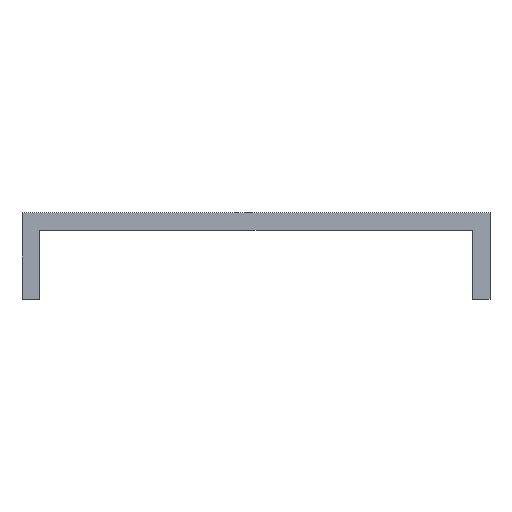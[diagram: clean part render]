
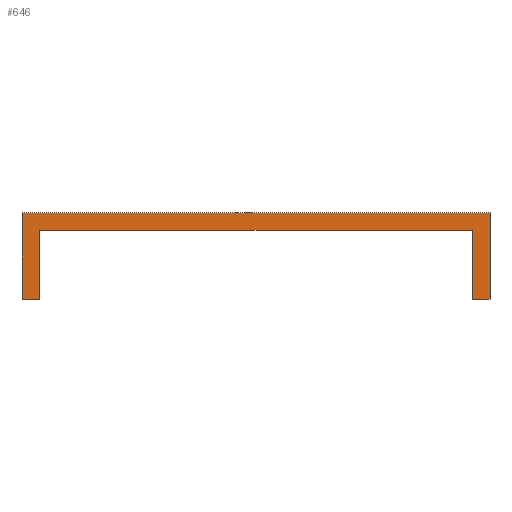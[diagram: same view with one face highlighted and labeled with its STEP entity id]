
A CAD part, top view. The second image highlights one B-rep face of the part: STEP entity #646.
In plain terms, the highlighted planar face has unit normal (0, 0, 1).
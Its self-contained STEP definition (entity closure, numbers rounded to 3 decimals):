
#24 = VERTEX_POINT('',#25);
#25 = CARTESIAN_POINT('',(-278.,0.,2.));
#32 = PLANE('',#33);
#33 = AXIS2_PLACEMENT_3D('',#34,#35,#36);
#34 = CARTESIAN_POINT('',(-278.,0.,0.));
#35 = DIRECTION('',(0.,1.,0.));
#36 = DIRECTION('',(1.,0.,0.));
#44 = PLANE('',#45);
#45 = AXIS2_PLACEMENT_3D('',#46,#47,#48);
#46 = CARTESIAN_POINT('',(-278.,103.,0.));
#47 = DIRECTION('',(1.,0.,-0.));
#48 = DIRECTION('',(0.,-1.,0.));
#56 = EDGE_CURVE('',#24,#57,#59,.T.);
#57 = VERTEX_POINT('',#58);
#58 = CARTESIAN_POINT('',(-257.,0.,2.));
#59 = SURFACE_CURVE('',#60,(#64,#71),.PCURVE_S1.);
#60 = LINE('',#61,#62);
#61 = CARTESIAN_POINT('',(-278.,0.,2.));
#62 = VECTOR('',#63,1.);
#63 = DIRECTION('',(1.,0.,0.));
#64 = PCURVE('',#32,#65);
#65 = DEFINITIONAL_REPRESENTATION('',(#66),#70);
#66 = LINE('',#67,#68);
#67 = CARTESIAN_POINT('',(0.,-2.));
#68 = VECTOR('',#69,1.);
#69 = DIRECTION('',(1.,0.));
#70 = ( GEOMETRIC_REPRESENTATION_CONTEXT(2) 
PARAMETRIC_REPRESENTATION_CONTEXT() REPRESENTATION_CONTEXT('2D SPACE',''
  ) );
#71 = PCURVE('',#72,#77);
#72 = PLANE('',#73);
#73 = AXIS2_PLACEMENT_3D('',#74,#75,#76);
#74 = CARTESIAN_POINT('',(0.,78.778,2.));
#75 = DIRECTION('',(0.,0.,1.));
#76 = DIRECTION('',(1.,0.,-0.));
#77 = DEFINITIONAL_REPRESENTATION('',(#78),#82);
#78 = LINE('',#79,#80);
#79 = CARTESIAN_POINT('',(-278.,-78.778));
#80 = VECTOR('',#81,1.);
#81 = DIRECTION('',(1.,0.));
#82 = ( GEOMETRIC_REPRESENTATION_CONTEXT(2) 
PARAMETRIC_REPRESENTATION_CONTEXT() REPRESENTATION_CONTEXT('2D SPACE',''
  ) );
#100 = PLANE('',#101);
#101 = AXIS2_PLACEMENT_3D('',#102,#103,#104);
#102 = CARTESIAN_POINT('',(-257.,0.,0.));
#103 = DIRECTION('',(-1.,0.,0.));
#104 = DIRECTION('',(0.,1.,0.));
#142 = EDGE_CURVE('',#57,#143,#145,.T.);
#143 = VERTEX_POINT('',#144);
#144 = CARTESIAN_POINT('',(-257.,82.,2.));
#145 = SURFACE_CURVE('',#146,(#150,#157),.PCURVE_S1.);
#146 = LINE('',#147,#148);
#147 = CARTESIAN_POINT('',(-257.,0.,2.));
#148 = VECTOR('',#149,1.);
#149 = DIRECTION('',(0.,1.,0.));
#150 = PCURVE('',#100,#151);
#151 = DEFINITIONAL_REPRESENTATION('',(#152),#156);
#152 = LINE('',#153,#154);
#153 = CARTESIAN_POINT('',(0.,-2.));
#154 = VECTOR('',#155,1.);
#155 = DIRECTION('',(1.,0.));
#156 = ( GEOMETRIC_REPRESENTATION_CONTEXT(2) 
PARAMETRIC_REPRESENTATION_CONTEXT() REPRESENTATION_CONTEXT('2D SPACE',''
  ) );
#157 = PCURVE('',#72,#158);
#158 = DEFINITIONAL_REPRESENTATION('',(#159),#163);
#159 = LINE('',#160,#161);
#160 = CARTESIAN_POINT('',(-257.,-78.778));
#161 = VECTOR('',#162,1.);
#162 = DIRECTION('',(0.,1.));
#163 = ( GEOMETRIC_REPRESENTATION_CONTEXT(2) 
PARAMETRIC_REPRESENTATION_CONTEXT() REPRESENTATION_CONTEXT('2D SPACE',''
  ) );
#181 = PLANE('',#182);
#182 = AXIS2_PLACEMENT_3D('',#183,#184,#185);
#183 = CARTESIAN_POINT('',(-257.,82.,0.));
#184 = DIRECTION('',(0.,1.,0.));
#185 = DIRECTION('',(1.,0.,0.));
#218 = EDGE_CURVE('',#143,#219,#221,.T.);
#219 = VERTEX_POINT('',#220);
#220 = CARTESIAN_POINT('',(257.,82.,2.));
#221 = SURFACE_CURVE('',#222,(#226,#233),.PCURVE_S1.);
#222 = LINE('',#223,#224);
#223 = CARTESIAN_POINT('',(-257.,82.,2.));
#224 = VECTOR('',#225,1.);
#225 = DIRECTION('',(1.,0.,0.));
#226 = PCURVE('',#181,#227);
#227 = DEFINITIONAL_REPRESENTATION('',(#228),#232);
#228 = LINE('',#229,#230);
#229 = CARTESIAN_POINT('',(0.,-2.));
#230 = VECTOR('',#231,1.);
#231 = DIRECTION('',(1.,0.));
#232 = ( GEOMETRIC_REPRESENTATION_CONTEXT(2) 
PARAMETRIC_REPRESENTATION_CONTEXT() REPRESENTATION_CONTEXT('2D SPACE',''
  ) );
#233 = PCURVE('',#72,#234);
#234 = DEFINITIONAL_REPRESENTATION('',(#235),#239);
#235 = LINE('',#236,#237);
#236 = CARTESIAN_POINT('',(-257.,3.222));
#237 = VECTOR('',#238,1.);
#238 = DIRECTION('',(1.,0.));
#239 = ( GEOMETRIC_REPRESENTATION_CONTEXT(2) 
PARAMETRIC_REPRESENTATION_CONTEXT() REPRESENTATION_CONTEXT('2D SPACE',''
  ) );
#257 = PLANE('',#258);
#258 = AXIS2_PLACEMENT_3D('',#259,#260,#261);
#259 = CARTESIAN_POINT('',(257.,82.,0.));
#260 = DIRECTION('',(1.,0.,-0.));
#261 = DIRECTION('',(0.,-1.,0.));
#294 = EDGE_CURVE('',#219,#295,#297,.T.);
#295 = VERTEX_POINT('',#296);
#296 = CARTESIAN_POINT('',(257.,0.,2.));
#297 = SURFACE_CURVE('',#298,(#302,#309),.PCURVE_S1.);
#298 = LINE('',#299,#300);
#299 = CARTESIAN_POINT('',(257.,82.,2.));
#300 = VECTOR('',#301,1.);
#301 = DIRECTION('',(0.,-1.,0.));
#302 = PCURVE('',#257,#303);
#303 = DEFINITIONAL_REPRESENTATION('',(#304),#308);
#304 = LINE('',#305,#306);
#305 = CARTESIAN_POINT('',(0.,-2.));
#306 = VECTOR('',#307,1.);
#307 = DIRECTION('',(1.,0.));
#308 = ( GEOMETRIC_REPRESENTATION_CONTEXT(2) 
PARAMETRIC_REPRESENTATION_CONTEXT() REPRESENTATION_CONTEXT('2D SPACE',''
  ) );
#309 = PCURVE('',#72,#310);
#310 = DEFINITIONAL_REPRESENTATION('',(#311),#315);
#311 = LINE('',#312,#313);
#312 = CARTESIAN_POINT('',(257.,3.222));
#313 = VECTOR('',#314,1.);
#314 = DIRECTION('',(0.,-1.));
#315 = ( GEOMETRIC_REPRESENTATION_CONTEXT(2) 
PARAMETRIC_REPRESENTATION_CONTEXT() REPRESENTATION_CONTEXT('2D SPACE',''
  ) );
#333 = PLANE('',#334);
#334 = AXIS2_PLACEMENT_3D('',#335,#336,#337);
#335 = CARTESIAN_POINT('',(257.,0.,0.));
#336 = DIRECTION('',(0.,1.,0.));
#337 = DIRECTION('',(1.,0.,0.));
#370 = EDGE_CURVE('',#295,#371,#373,.T.);
#371 = VERTEX_POINT('',#372);
#372 = CARTESIAN_POINT('',(278.,0.,2.));
#373 = SURFACE_CURVE('',#374,(#378,#385),.PCURVE_S1.);
#374 = LINE('',#375,#376);
#375 = CARTESIAN_POINT('',(257.,0.,2.));
#376 = VECTOR('',#377,1.);
#377 = DIRECTION('',(1.,0.,0.));
#378 = PCURVE('',#333,#379);
#379 = DEFINITIONAL_REPRESENTATION('',(#380),#384);
#380 = LINE('',#381,#382);
#381 = CARTESIAN_POINT('',(0.,-2.));
#382 = VECTOR('',#383,1.);
#383 = DIRECTION('',(1.,0.));
#384 = ( GEOMETRIC_REPRESENTATION_CONTEXT(2) 
PARAMETRIC_REPRESENTATION_CONTEXT() REPRESENTATION_CONTEXT('2D SPACE',''
  ) );
#385 = PCURVE('',#72,#386);
#386 = DEFINITIONAL_REPRESENTATION('',(#387),#391);
#387 = LINE('',#388,#389);
#388 = CARTESIAN_POINT('',(257.,-78.778));
#389 = VECTOR('',#390,1.);
#390 = DIRECTION('',(1.,0.));
#391 = ( GEOMETRIC_REPRESENTATION_CONTEXT(2) 
PARAMETRIC_REPRESENTATION_CONTEXT() REPRESENTATION_CONTEXT('2D SPACE',''
  ) );
#409 = PLANE('',#410);
#410 = AXIS2_PLACEMENT_3D('',#411,#412,#413);
#411 = CARTESIAN_POINT('',(278.,0.,0.));
#412 = DIRECTION('',(-1.,0.,0.));
#413 = DIRECTION('',(0.,1.,0.));
#446 = EDGE_CURVE('',#371,#447,#449,.T.);
#447 = VERTEX_POINT('',#448);
#448 = CARTESIAN_POINT('',(278.,103.,2.));
#449 = SURFACE_CURVE('',#450,(#454,#461),.PCURVE_S1.);
#450 = LINE('',#451,#452);
#451 = CARTESIAN_POINT('',(278.,0.,2.));
#452 = VECTOR('',#453,1.);
#453 = DIRECTION('',(0.,1.,0.));
#454 = PCURVE('',#409,#455);
#455 = DEFINITIONAL_REPRESENTATION('',(#456),#460);
#456 = LINE('',#457,#458);
#457 = CARTESIAN_POINT('',(0.,-2.));
#458 = VECTOR('',#459,1.);
#459 = DIRECTION('',(1.,0.));
#460 = ( GEOMETRIC_REPRESENTATION_CONTEXT(2) 
PARAMETRIC_REPRESENTATION_CONTEXT() REPRESENTATION_CONTEXT('2D SPACE',''
  ) );
#461 = PCURVE('',#72,#462);
#462 = DEFINITIONAL_REPRESENTATION('',(#463),#467);
#463 = LINE('',#464,#465);
#464 = CARTESIAN_POINT('',(278.,-78.778));
#465 = VECTOR('',#466,1.);
#466 = DIRECTION('',(0.,1.));
#467 = ( GEOMETRIC_REPRESENTATION_CONTEXT(2) 
PARAMETRIC_REPRESENTATION_CONTEXT() REPRESENTATION_CONTEXT('2D SPACE',''
  ) );
#485 = PLANE('',#486);
#486 = AXIS2_PLACEMENT_3D('',#487,#488,#489);
#487 = CARTESIAN_POINT('',(278.,103.,0.));
#488 = DIRECTION('',(0.,-1.,0.));
#489 = DIRECTION('',(-1.,0.,0.));
#522 = EDGE_CURVE('',#447,#523,#525,.T.);
#523 = VERTEX_POINT('',#524);
#524 = CARTESIAN_POINT('',(-278.,103.,2.));
#525 = SURFACE_CURVE('',#526,(#530,#537),.PCURVE_S1.);
#526 = LINE('',#527,#528);
#527 = CARTESIAN_POINT('',(278.,103.,2.));
#528 = VECTOR('',#529,1.);
#529 = DIRECTION('',(-1.,0.,0.));
#530 = PCURVE('',#485,#531);
#531 = DEFINITIONAL_REPRESENTATION('',(#532),#536);
#532 = LINE('',#533,#534);
#533 = CARTESIAN_POINT('',(0.,-2.));
#534 = VECTOR('',#535,1.);
#535 = DIRECTION('',(1.,0.));
#536 = ( GEOMETRIC_REPRESENTATION_CONTEXT(2) 
PARAMETRIC_REPRESENTATION_CONTEXT() REPRESENTATION_CONTEXT('2D SPACE',''
  ) );
#537 = PCURVE('',#72,#538);
#538 = DEFINITIONAL_REPRESENTATION('',(#539),#543);
#539 = LINE('',#540,#541);
#540 = CARTESIAN_POINT('',(278.,24.222));
#541 = VECTOR('',#542,1.);
#542 = DIRECTION('',(-1.,0.));
#543 = ( GEOMETRIC_REPRESENTATION_CONTEXT(2) 
PARAMETRIC_REPRESENTATION_CONTEXT() REPRESENTATION_CONTEXT('2D SPACE',''
  ) );
#593 = EDGE_CURVE('',#523,#24,#594,.T.);
#594 = SURFACE_CURVE('',#595,(#599,#606),.PCURVE_S1.);
#595 = LINE('',#596,#597);
#596 = CARTESIAN_POINT('',(-278.,103.,2.));
#597 = VECTOR('',#598,1.);
#598 = DIRECTION('',(0.,-1.,0.));
#599 = PCURVE('',#44,#600);
#600 = DEFINITIONAL_REPRESENTATION('',(#601),#605);
#601 = LINE('',#602,#603);
#602 = CARTESIAN_POINT('',(0.,-2.));
#603 = VECTOR('',#604,1.);
#604 = DIRECTION('',(1.,0.));
#605 = ( GEOMETRIC_REPRESENTATION_CONTEXT(2) 
PARAMETRIC_REPRESENTATION_CONTEXT() REPRESENTATION_CONTEXT('2D SPACE',''
  ) );
#606 = PCURVE('',#72,#607);
#607 = DEFINITIONAL_REPRESENTATION('',(#608),#612);
#608 = LINE('',#609,#610);
#609 = CARTESIAN_POINT('',(-278.,24.222));
#610 = VECTOR('',#611,1.);
#611 = DIRECTION('',(0.,-1.));
#612 = ( GEOMETRIC_REPRESENTATION_CONTEXT(2) 
PARAMETRIC_REPRESENTATION_CONTEXT() REPRESENTATION_CONTEXT('2D SPACE',''
  ) );
#646 = ADVANCED_FACE('',(#647),#72,.T.);
#647 = FACE_BOUND('',#648,.T.);
#648 = EDGE_LOOP('',(#649,#650,#651,#652,#653,#654,#655,#656));
#649 = ORIENTED_EDGE('',*,*,#56,.T.);
#650 = ORIENTED_EDGE('',*,*,#142,.T.);
#651 = ORIENTED_EDGE('',*,*,#218,.T.);
#652 = ORIENTED_EDGE('',*,*,#294,.T.);
#653 = ORIENTED_EDGE('',*,*,#370,.T.);
#654 = ORIENTED_EDGE('',*,*,#446,.T.);
#655 = ORIENTED_EDGE('',*,*,#522,.T.);
#656 = ORIENTED_EDGE('',*,*,#593,.T.);
